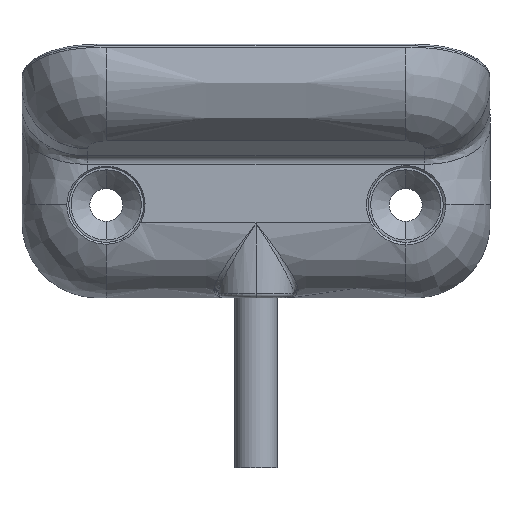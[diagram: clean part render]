
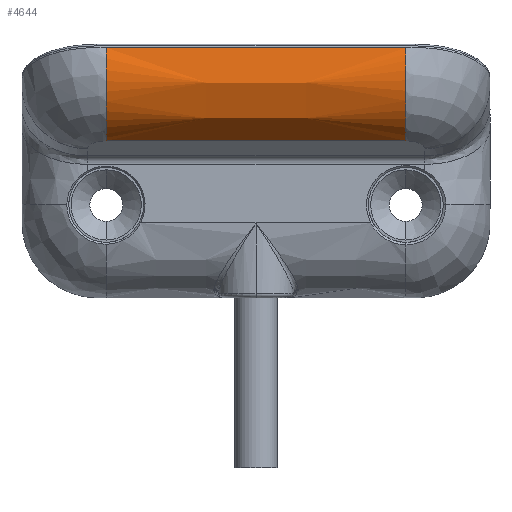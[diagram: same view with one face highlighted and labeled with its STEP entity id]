
A CAD part, front view. The second image highlights one B-rep face of the part: STEP entity #4644.
In plain terms, the highlighted free-form (B-spline) face has degree [3, 3] with [4, 4] control points.
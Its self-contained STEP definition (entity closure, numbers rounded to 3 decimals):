
#1635 = CARTESIAN_POINT ( 'NONE',  ( -85., 19.009, 7.34 ) ) ;
#1636 = DIRECTION ( 'NONE',  ( 1., 0., 0. ) ) ;
#1934 = CARTESIAN_POINT ( 'NONE',  ( -16., 15.381, 17.307 ) ) ;
#1947 = CARTESIAN_POINT ( 'NONE',  ( -16., 13.525, 13.325 ) ) ;
#1948 = CARTESIAN_POINT ( 'NONE',  ( -16., 15.027, 9.197 ) ) ;
#1949 = CARTESIAN_POINT ( 'NONE',  ( -16., 19.009, 7.34 ) ) ;
#3687 = CARTESIAN_POINT ( 'NONE',  ( -85., 15.381, 17.307 ) ) ;
#3691 = DIRECTION ( 'NONE',  ( 1., 0., 0. ) ) ;
#3696 = CARTESIAN_POINT ( 'NONE',  ( 16., 19.009, 7.34 ) ) ;
#3707 = CARTESIAN_POINT ( 'NONE',  ( -16., 19.009, 7.34 ) ) ;
#4396 = LINE ( 'NONE', #3687, #4399 ) ;
#4399 = VECTOR ( 'NONE', #3691, 1000. ) ;
#4644 = ADVANCED_FACE ( 'NONE', ( #9967 ), #12162, .F. ) ;
#5813 = LINE ( 'NONE', #1635, #5814 ) ;
#5814 = VECTOR ( 'NONE', #1636, 1000. ) ;
#6705 = ORIENTED_EDGE ( 'NONE', *, *, #13643, .T. ) ;
#6706 = ORIENTED_EDGE ( 'NONE', *, *, #13681, .T. ) ;
#6707 = ORIENTED_EDGE ( 'NONE', *, *, #13721, .T. ) ;
#6708 = ORIENTED_EDGE ( 'NONE', *, *, #8590, .F. ) ;
#6746 = EDGE_LOOP ( 'NONE', ( #6708, #6707, #6706, #6705 ) ) ;
#7048 = CARTESIAN_POINT ( 'NONE',  ( 16., 19.009, 7.34 ) ) ;
#7081 = CARTESIAN_POINT ( 'NONE',  ( -5.333, 19.009, 7.34 ) ) ;
#7083 = CARTESIAN_POINT ( 'NONE',  ( -16., 19.009, 7.34 ) ) ;
#7086 = CARTESIAN_POINT ( 'NONE',  ( 5.333, 19.009, 7.34 ) ) ;
#7088 = CARTESIAN_POINT ( 'NONE',  ( -16., 15.027, 9.197 ) ) ;
#7090 = CARTESIAN_POINT ( 'NONE',  ( -5.333, 15.027, 9.197 ) ) ;
#7092 = CARTESIAN_POINT ( 'NONE',  ( 5.333, 15.027, 9.197 ) ) ;
#7094 = CARTESIAN_POINT ( 'NONE',  ( 16., 15.027, 9.197 ) ) ;
#7096 = CARTESIAN_POINT ( 'NONE',  ( -16., 13.525, 13.325 ) ) ;
#7097 = CARTESIAN_POINT ( 'NONE',  ( -5.333, 13.525, 13.325 ) ) ;
#7099 = CARTESIAN_POINT ( 'NONE',  ( 5.333, 13.525, 13.325 ) ) ;
#7101 = CARTESIAN_POINT ( 'NONE',  ( 16., 13.525, 13.325 ) ) ;
#7103 = CARTESIAN_POINT ( 'NONE',  ( -16., 15.381, 17.307 ) ) ;
#7105 = CARTESIAN_POINT ( 'NONE',  ( -5.333, 15.381, 17.307 ) ) ;
#7107 = CARTESIAN_POINT ( 'NONE',  ( 5.333, 15.381, 17.307 ) ) ;
#7109 = CARTESIAN_POINT ( 'NONE',  ( 16., 15.381, 17.307 ) ) ;
#8590 = EDGE_CURVE ( 'NONE', #12980, #12981, #4396, .T. ) ;
#8598 = VERTEX_POINT ( 'NONE', #3696 ) ;
#8599 = VERTEX_POINT ( 'NONE', #3707 ) ;
#9967 = FACE_OUTER_BOUND ( 'NONE', #6746, .T. ) ;
#12162 =( BOUNDED_SURFACE ( )  B_SPLINE_SURFACE ( 3, 3, ( 
 ( #7083, #7081, #7086, #7048 ),
 ( #7088, #7090, #7092, #7094 ),
 ( #7096, #7097, #7099, #7101 ),
 ( #7103, #7105, #7107, #7109 ) ),
 .UNSPECIFIED., .F., .F., .T. ) 
 B_SPLINE_SURFACE_WITH_KNOTS ( ( 4, 4 ),
 ( 4, 4 ),
 ( 0., 1. ),
 ( 0., 1. ),
 .UNSPECIFIED. ) 
 GEOMETRIC_REPRESENTATION_ITEM ( )  RATIONAL_B_SPLINE_SURFACE ( (
 ( 1., 1., 1., 1.),
 ( 0.805, 0.805, 0.805, 0.805),
 ( 0.805, 0.805, 0.805, 0.805),
 ( 1., 1., 1., 1.) ) ) 
 REPRESENTATION_ITEM ( '' )  SURFACE ( )  );
#12169 =( BOUNDED_CURVE ( )  B_SPLINE_CURVE ( 3, ( #14750, #14756, #14757, #14758 ),
 .UNSPECIFIED., .F., .T. ) 
 B_SPLINE_CURVE_WITH_KNOTS ( ( 4, 4 ),
 ( 0., 1. ),
 .UNSPECIFIED. ) 
 CURVE ( )  GEOMETRIC_REPRESENTATION_ITEM ( )  RATIONAL_B_SPLINE_CURVE ( ( 1., 0.805, 0.805, 1. ) ) 
 REPRESENTATION_ITEM ( '' )  );
#12175 =( BOUNDED_CURVE ( )  B_SPLINE_CURVE ( 3, ( #1934, #1947, #1948, #1949 ),
 .UNSPECIFIED., .F., .T. ) 
 B_SPLINE_CURVE_WITH_KNOTS ( ( 4, 4 ),
 ( 0., 1. ),
 .UNSPECIFIED. ) 
 CURVE ( )  GEOMETRIC_REPRESENTATION_ITEM ( )  RATIONAL_B_SPLINE_CURVE ( ( 1., 0.805, 0.805, 1. ) ) 
 REPRESENTATION_ITEM ( '' )  );
#12980 = VERTEX_POINT ( 'NONE', #14579 ) ;
#12981 = VERTEX_POINT ( 'NONE', #14580 ) ;
#13643 = EDGE_CURVE ( 'NONE', #8598, #12981, #12169, .T. ) ;
#13681 = EDGE_CURVE ( 'NONE', #8599, #8598, #5813, .T. ) ;
#13721 = EDGE_CURVE ( 'NONE', #12980, #8599, #12175, .T. ) ;
#14579 = CARTESIAN_POINT ( 'NONE',  ( -16., 15.381, 17.307 ) ) ;
#14580 = CARTESIAN_POINT ( 'NONE',  ( 16., 15.381, 17.307 ) ) ;
#14750 = CARTESIAN_POINT ( 'NONE',  ( 16., 19.009, 7.34 ) ) ;
#14756 = CARTESIAN_POINT ( 'NONE',  ( 16., 15.027, 9.197 ) ) ;
#14757 = CARTESIAN_POINT ( 'NONE',  ( 16., 13.525, 13.325 ) ) ;
#14758 = CARTESIAN_POINT ( 'NONE',  ( 16., 15.381, 17.307 ) ) ;
